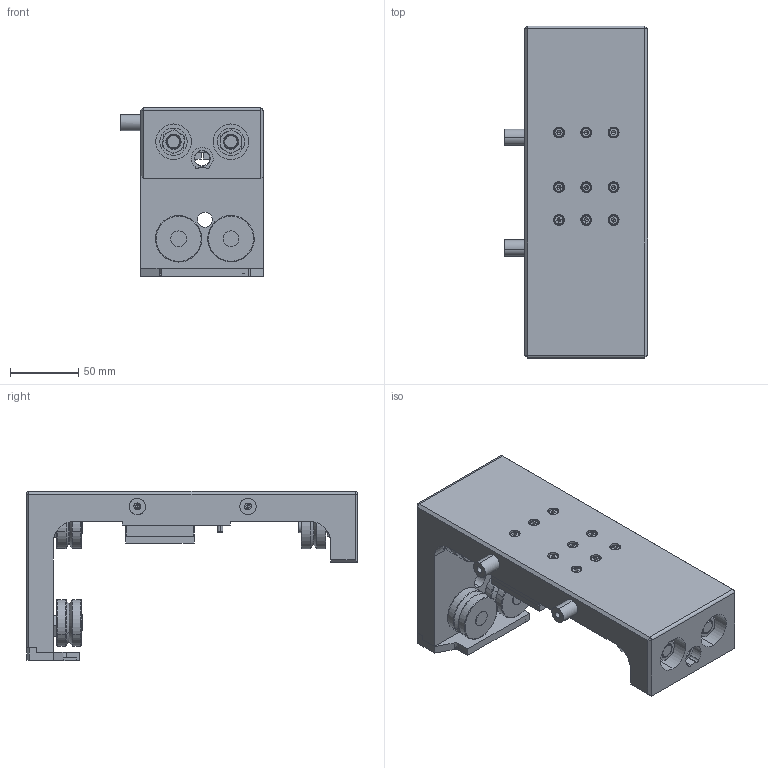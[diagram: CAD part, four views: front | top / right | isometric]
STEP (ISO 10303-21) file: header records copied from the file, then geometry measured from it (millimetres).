
FILE_DESCRIPTION (( 'STEP AP214' ), '1' );
FILE_NAME ('FTS-MT.SUB007.STEP', '2025-02-21T05:13:00', ( '' ), ( '' ), 'SwSTEP 2.0', 'SolidWorks 2021', '' );
FILE_SCHEMA (( 'AUTOMOTIVE_DESIGN' ));
Length unit declared in the file: millimetre
Products named in the file (13): SVR-34FC+淏陑腹雄幗謫+SAIBO; GB120 4x12+内螺纹圆柱定位销+国产; DDL80-50-M+80mm×50mm磁板+上海会通; S-DHYP001+磁钢-35SH-10mm×9.5mm×2mm+北京安泰; M4x25-内六角圆柱头-全牙-A2-70+螺钉+国产; SVR-34DRC+淏陑淕极幗謫+SAIBO; FTS-MT.SUB0702; SVR-34DRDE+偏心整体滚轮+SAIBO; FTS-MT.SUB007.0001; NBBKS12-15-M4+橡胶.热粘接减震材料.螺栓热粘接型+MISUMI; FTS-MT.SUB007.0002; GB70.2 M4x8+内六角平圆头螺钉(不锈钢)+国产; FTS-MT.SUB007
Assembly tree (32 placements, depth 3):
  FTS-MT.SUB007
    FTS-MT.SUB007.0001
    FTS-MT.SUB0702
      FTS-MT.SUB007.0002
      S-DHYP001+磁钢-35SH-10mm×9.5mm×2mm+北京安泰  x6
    SVR-34DRC+淏陑淕极幗謫+SAIBO  x2
    SVR-34FC+淏陑腹雄幗謫+SAIBO  x2
    SVR-34DRDE+偏心整体滚轮+SAIBO  x2
    DDL80-50-M+80mm×50mm磁板+上海会通
    M4x25-内六角圆柱头-全牙-A2-70+螺钉+国产  x9
    GB70.2 M4x8+内六角平圆头螺钉(不锈钢)+国产  x3
    GB120 4x12+内螺纹圆柱定位销+国产  x2
    NBBKS12-15-M4+橡胶.热粘接减震材料.螺栓热粘接型+MISUMI  x2
Bounding box: 105 x 243 x 123.9 mm (x, y, z)
Volume: 631811.7 mm3; surface area: 200231.1 mm2
Topology: 38 solids, 47 shells, 1385 faces, 3213 edges, 1992 vertices
Faces by surface type: plane 636, cylinder 403, cone 266, torus 54, bspline 20, sphere 6
Entity records: 29842 total; most frequent: CARTESIAN_POINT 6330, DIRECTION 4090, ORIENTED_EDGE 3816, EDGE_CURVE 1920, AXIS2_PLACEMENT_3D 1564, VERTEX_POINT 1230, LINE 962, VECTOR 962
